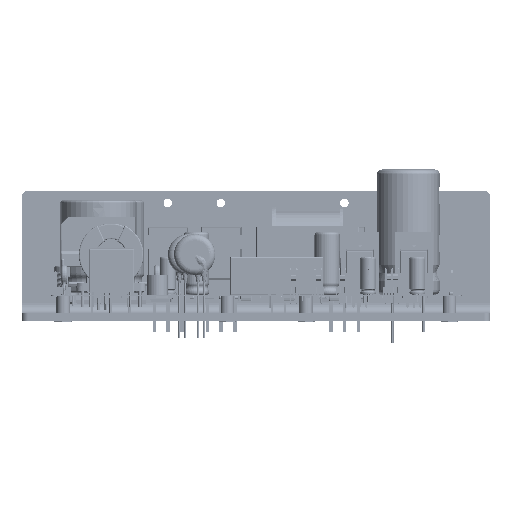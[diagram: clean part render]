
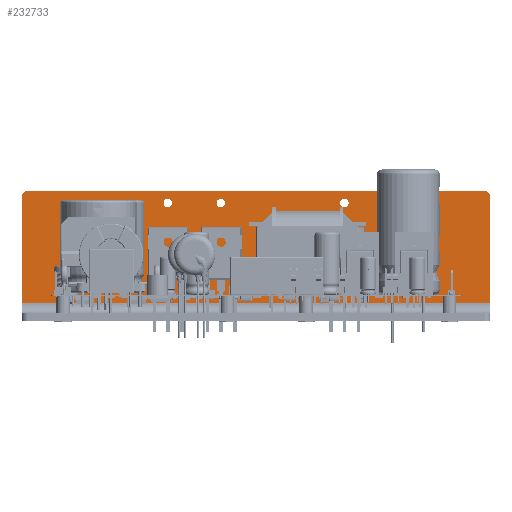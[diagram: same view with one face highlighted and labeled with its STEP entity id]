
A CAD part, front view. The second image highlights one B-rep face of the part: STEP entity #232733.
In plain terms, the highlighted planar face has unit normal (0, -1, 0).
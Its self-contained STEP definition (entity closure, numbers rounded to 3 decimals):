
#231902 = VERTEX_POINT('',#231903);
#231903 = CARTESIAN_POINT('',(35.245,-125.888,-114.408
    ));
#231911 = VERTEX_POINT('',#231912);
#231912 = CARTESIAN_POINT('',(35.245,-125.888,-117.808
    ));
#231918 = EDGE_CURVE('',#231911,#231902,#231919,.T.);
#231919 = CIRCLE('',#231920,1.7);
#231920 = AXIS2_PLACEMENT_3D('',#231921,#231922,#231923);
#231921 = CARTESIAN_POINT('',(35.245,-125.888,-116.108
    ));
#231922 = DIRECTION('',(0.,1.,0.));
#231923 = DIRECTION('',(0.,0.,1.));
#231976 = VERTEX_POINT('',#231977);
#231977 = CARTESIAN_POINT('',(8.885,-125.888,-131.496
    ));
#231985 = VERTEX_POINT('',#231986);
#231986 = CARTESIAN_POINT('',(8.885,-125.888,-134.896
    ));
#231992 = EDGE_CURVE('',#231985,#231976,#231993,.T.);
#231993 = CIRCLE('',#231994,1.7);
#231994 = AXIS2_PLACEMENT_3D('',#231995,#231996,#231997);
#231995 = CARTESIAN_POINT('',(8.885,-125.888,-133.196
    ));
#231996 = DIRECTION('',(0.,1.,0.));
#231997 = DIRECTION('',(0.,0.,1.));
#232050 = VERTEX_POINT('',#232051);
#232051 = CARTESIAN_POINT('',(-14.032,-125.888,-114.408
    ));
#232059 = VERTEX_POINT('',#232060);
#232060 = CARTESIAN_POINT('',(-14.032,-125.888,-117.808
    ));
#232066 = EDGE_CURVE('',#232059,#232050,#232067,.T.);
#232067 = CIRCLE('',#232068,1.7);
#232068 = AXIS2_PLACEMENT_3D('',#232069,#232070,#232071);
#232069 = CARTESIAN_POINT('',(-14.032,-125.888,-116.108
    ));
#232070 = DIRECTION('',(0.,1.,0.));
#232071 = DIRECTION('',(0.,0.,1.));
#232124 = VERTEX_POINT('',#232125);
#232125 = CARTESIAN_POINT('',(-35.199,-125.888,-114.408
    ));
#232133 = VERTEX_POINT('',#232134);
#232134 = CARTESIAN_POINT('',(-35.199,-125.888,-117.808
    ));
#232140 = EDGE_CURVE('',#232133,#232124,#232141,.T.);
#232141 = CIRCLE('',#232142,1.7);
#232142 = AXIS2_PLACEMENT_3D('',#232143,#232144,#232145);
#232143 = CARTESIAN_POINT('',(-35.199,-125.888,-116.108
    ));
#232144 = DIRECTION('',(0.,1.,0.));
#232145 = DIRECTION('',(0.,0.,1.));
#232708 = VERTEX_POINT('',#232709);
#232709 = CARTESIAN_POINT('',(-90.813,-125.888,-111.108));
#232715 = EDGE_CURVE('',#232716,#232708,#232718,.T.);
#232716 = VERTEX_POINT('',#232717);
#232717 = CARTESIAN_POINT('',(90.813,-125.888,-111.108));
#232718 = LINE('',#232719,#232720);
#232719 = CARTESIAN_POINT('',(93.313,-125.888,-111.108));
#232720 = VECTOR('',#232721,1.);
#232721 = DIRECTION('',(-1.,0.,0.));
#232733 = ADVANCED_FACE('',(#232734,#232744,#232754,#232764,#232774),
  #232817,.F.);
#232734 = FACE_BOUND('',#232735,.T.);
#232735 = EDGE_LOOP('',(#232736,#232743));
#232736 = ORIENTED_EDGE('',*,*,#232737,.T.);
#232737 = EDGE_CURVE('',#231902,#231911,#232738,.T.);
#232738 = CIRCLE('',#232739,1.7);
#232739 = AXIS2_PLACEMENT_3D('',#232740,#232741,#232742);
#232740 = CARTESIAN_POINT('',(35.245,-125.888,-116.108
    ));
#232741 = DIRECTION('',(0.,1.,0.));
#232742 = DIRECTION('',(0.,0.,1.));
#232743 = ORIENTED_EDGE('',*,*,#231918,.T.);
#232744 = FACE_BOUND('',#232745,.T.);
#232745 = EDGE_LOOP('',(#232746,#232753));
#232746 = ORIENTED_EDGE('',*,*,#232747,.T.);
#232747 = EDGE_CURVE('',#231976,#231985,#232748,.T.);
#232748 = CIRCLE('',#232749,1.7);
#232749 = AXIS2_PLACEMENT_3D('',#232750,#232751,#232752);
#232750 = CARTESIAN_POINT('',(8.885,-125.888,-133.196
    ));
#232751 = DIRECTION('',(0.,1.,0.));
#232752 = DIRECTION('',(0.,0.,1.));
#232753 = ORIENTED_EDGE('',*,*,#231992,.T.);
#232754 = FACE_BOUND('',#232755,.T.);
#232755 = EDGE_LOOP('',(#232756,#232763));
#232756 = ORIENTED_EDGE('',*,*,#232757,.T.);
#232757 = EDGE_CURVE('',#232050,#232059,#232758,.T.);
#232758 = CIRCLE('',#232759,1.7);
#232759 = AXIS2_PLACEMENT_3D('',#232760,#232761,#232762);
#232760 = CARTESIAN_POINT('',(-14.032,-125.888,-116.108
    ));
#232761 = DIRECTION('',(0.,1.,0.));
#232762 = DIRECTION('',(0.,0.,1.));
#232763 = ORIENTED_EDGE('',*,*,#232066,.T.);
#232764 = FACE_BOUND('',#232765,.T.);
#232765 = EDGE_LOOP('',(#232766,#232773));
#232766 = ORIENTED_EDGE('',*,*,#232767,.T.);
#232767 = EDGE_CURVE('',#232124,#232133,#232768,.T.);
#232768 = CIRCLE('',#232769,1.7);
#232769 = AXIS2_PLACEMENT_3D('',#232770,#232771,#232772);
#232770 = CARTESIAN_POINT('',(-35.199,-125.888,-116.108
    ));
#232771 = DIRECTION('',(0.,1.,0.));
#232772 = DIRECTION('',(0.,0.,1.));
#232773 = ORIENTED_EDGE('',*,*,#232140,.T.);
#232774 = FACE_BOUND('',#232775,.T.);
#232775 = EDGE_LOOP('',(#232776,#232777,#232786,#232794,#232802,#232810)
  );
#232776 = ORIENTED_EDGE('',*,*,#232715,.T.);
#232777 = ORIENTED_EDGE('',*,*,#232778,.T.);
#232778 = EDGE_CURVE('',#232708,#232779,#232781,.T.);
#232779 = VERTEX_POINT('',#232780);
#232780 = CARTESIAN_POINT('',(-93.313,-125.888,-113.608));
#232781 = CIRCLE('',#232782,2.5);
#232782 = AXIS2_PLACEMENT_3D('',#232783,#232784,#232785);
#232783 = CARTESIAN_POINT('',(-90.813,-125.888,-113.608));
#232784 = DIRECTION('',(0.,-1.,0.));
#232785 = DIRECTION('',(0.,0.,1.));
#232786 = ORIENTED_EDGE('',*,*,#232787,.T.);
#232787 = EDGE_CURVE('',#232779,#232788,#232790,.T.);
#232788 = VERTEX_POINT('',#232789);
#232789 = CARTESIAN_POINT('',(-93.313,-125.888,-156.108));
#232790 = LINE('',#232791,#232792);
#232791 = CARTESIAN_POINT('',(-93.313,-125.888,-111.108));
#232792 = VECTOR('',#232793,1.);
#232793 = DIRECTION('',(0.,0.,-1.));
#232794 = ORIENTED_EDGE('',*,*,#232795,.F.);
#232795 = EDGE_CURVE('',#232796,#232788,#232798,.T.);
#232796 = VERTEX_POINT('',#232797);
#232797 = CARTESIAN_POINT('',(93.313,-125.888,-156.108));
#232798 = LINE('',#232799,#232800);
#232799 = CARTESIAN_POINT('',(93.313,-125.888,-156.108));
#232800 = VECTOR('',#232801,1.);
#232801 = DIRECTION('',(-1.,0.,0.));
#232802 = ORIENTED_EDGE('',*,*,#232803,.F.);
#232803 = EDGE_CURVE('',#232804,#232796,#232806,.T.);
#232804 = VERTEX_POINT('',#232805);
#232805 = CARTESIAN_POINT('',(93.313,-125.888,-113.608));
#232806 = LINE('',#232807,#232808);
#232807 = CARTESIAN_POINT('',(93.313,-125.888,-111.108));
#232808 = VECTOR('',#232809,1.);
#232809 = DIRECTION('',(0.,0.,-1.));
#232810 = ORIENTED_EDGE('',*,*,#232811,.T.);
#232811 = EDGE_CURVE('',#232804,#232716,#232812,.T.);
#232812 = CIRCLE('',#232813,2.5);
#232813 = AXIS2_PLACEMENT_3D('',#232814,#232815,#232816);
#232814 = CARTESIAN_POINT('',(90.813,-125.888,-113.608));
#232815 = DIRECTION('',(0.,-1.,0.));
#232816 = DIRECTION('',(0.,0.,1.));
#232817 = PLANE('',#232818);
#232818 = AXIS2_PLACEMENT_3D('',#232819,#232820,#232821);
#232819 = CARTESIAN_POINT('',(93.313,-125.888,-111.108));
#232820 = DIRECTION('',(0.,1.,0.));
#232821 = DIRECTION('',(0.,0.,1.));
